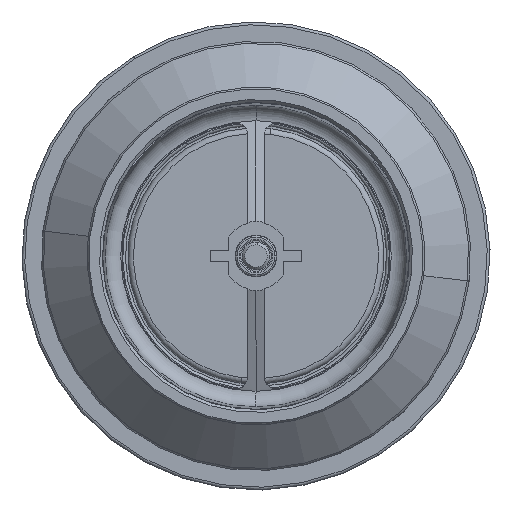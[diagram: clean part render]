
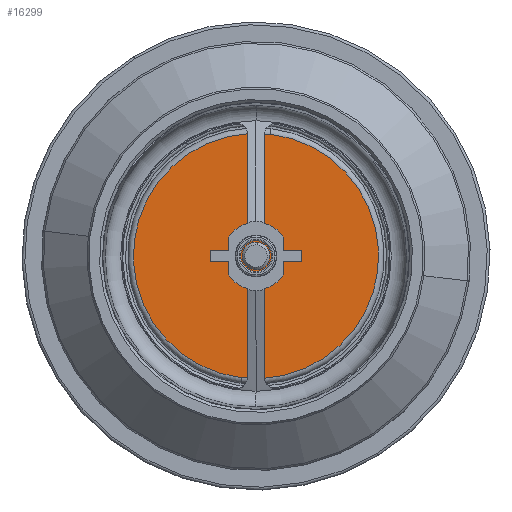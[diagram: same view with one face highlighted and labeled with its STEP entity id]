
A CAD part, front view. The second image highlights one B-rep face of the part: STEP entity #16299.
In plain terms, the highlighted planar face has unit normal (0, -1, 0).
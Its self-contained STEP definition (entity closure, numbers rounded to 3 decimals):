
#778 = CARTESIAN_POINT ( 'NONE',  ( 0., -8., 5. ) ) ;
#874 = FACE_OUTER_BOUND ( 'NONE', #14139, .T. ) ;
#1077 = DIRECTION ( 'NONE',  ( 0., 0., -1. ) ) ;
#1218 = ORIENTED_EDGE ( 'NONE', *, *, #9402, .F. ) ;
#1419 = CARTESIAN_POINT ( 'NONE',  ( 0., -8., -44. ) ) ;
#1781 = ORIENTED_EDGE ( 'NONE', *, *, #10348, .T. ) ;
#2913 = ORIENTED_EDGE ( 'NONE', *, *, #19689, .T. ) ;
#3276 = AXIS2_PLACEMENT_3D ( 'NONE', #14896, #4406, #16672 ) ;
#3302 = EDGE_CURVE ( 'NONE', #21151, #9524, #16989, .T. ) ;
#3515 = CARTESIAN_POINT ( 'NONE',  ( 0., -8., 0. ) ) ;
#4005 = CARTESIAN_POINT ( 'NONE',  ( 0., -8., 0. ) ) ;
#4406 = DIRECTION ( 'NONE',  ( 0., -1., 0. ) ) ;
#4910 = VERTEX_POINT ( 'NONE', #1419 ) ;
#5280 = DIRECTION ( 'NONE',  ( 0., 0., -1. ) ) ;
#5451 = AXIS2_PLACEMENT_3D ( 'NONE', #4005, #16248, #5755 ) ;
#5580 = CIRCLE ( 'NONE', #3276, 44. ) ;
#5755 = DIRECTION ( 'NONE',  ( 0., 0., -1. ) ) ;
#8823 = AXIS2_PLACEMENT_3D ( 'NONE', #22090, #11578, #1077 ) ;
#9188 = AXIS2_PLACEMENT_3D ( 'NONE', #3515, #15771, #5280 ) ;
#9402 = EDGE_CURVE ( 'NONE', #9524, #21151, #11840, .T. ) ;
#9524 = VERTEX_POINT ( 'NONE', #13506 ) ;
#10348 = EDGE_CURVE ( 'NONE', #4910, #16876, #5580, .T. ) ;
#10403 = CARTESIAN_POINT ( 'NONE',  ( 0., -8., 44. ) ) ;
#11578 = DIRECTION ( 'NONE',  ( 0., -1., 0. ) ) ;
#11840 = CIRCLE ( 'NONE', #8823, 5. ) ;
#12070 = CIRCLE ( 'NONE', #5451, 44. ) ;
#12187 = DIRECTION ( 'NONE',  ( 0., 0., -1. ) ) ;
#13506 = CARTESIAN_POINT ( 'NONE',  ( 0., -8., -5. ) ) ;
#13887 = PLANE ( 'NONE',  #14231 ) ;
#14139 = EDGE_LOOP ( 'NONE', ( #1781, #2913 ) ) ;
#14231 = AXIS2_PLACEMENT_3D ( 'NONE', #19173, #22692, #12187 ) ;
#14896 = CARTESIAN_POINT ( 'NONE',  ( 0., -8., 0. ) ) ;
#15419 = ORIENTED_EDGE ( 'NONE', *, *, #3302, .F. ) ;
#15771 = DIRECTION ( 'NONE',  ( 0., -1., 0. ) ) ;
#16248 = DIRECTION ( 'NONE',  ( 0., -1., 0. ) ) ;
#16299 = ADVANCED_FACE ( 'NONE', ( #874, #19006 ), #13887, .T. ) ;
#16672 = DIRECTION ( 'NONE',  ( 0., 0., -1. ) ) ;
#16876 = VERTEX_POINT ( 'NONE', #10403 ) ;
#16989 = CIRCLE ( 'NONE', #9188, 5. ) ;
#17453 = EDGE_LOOP ( 'NONE', ( #1218, #15419 ) ) ;
#19006 = FACE_BOUND ( 'NONE', #17453, .T. ) ;
#19173 = CARTESIAN_POINT ( 'NONE',  ( 46., -8., 0. ) ) ;
#19689 = EDGE_CURVE ( 'NONE', #16876, #4910, #12070, .T. ) ;
#21151 = VERTEX_POINT ( 'NONE', #778 ) ;
#22090 = CARTESIAN_POINT ( 'NONE',  ( 0., -8., 0. ) ) ;
#22692 = DIRECTION ( 'NONE',  ( 0., -1., 0. ) ) ;
